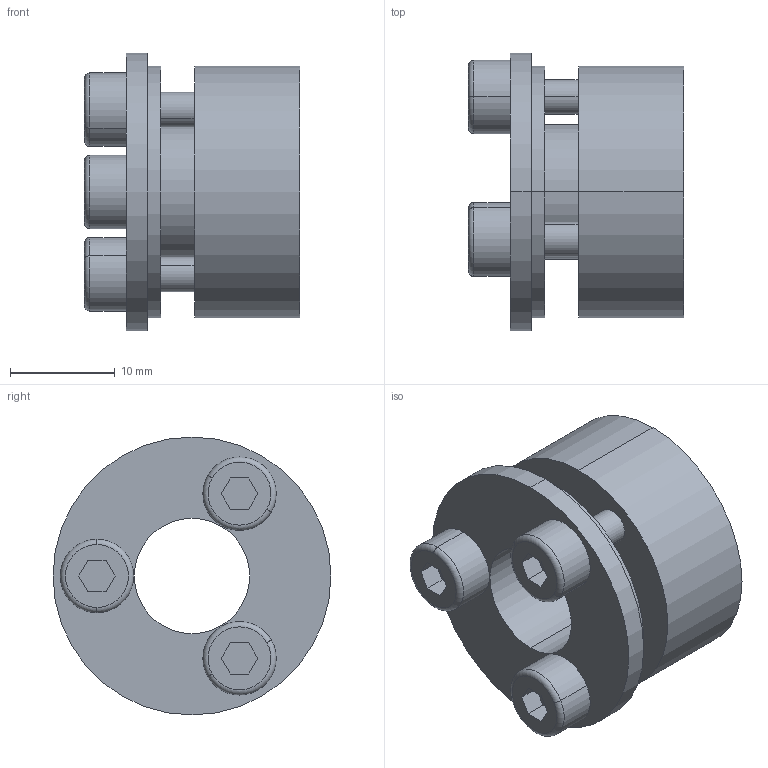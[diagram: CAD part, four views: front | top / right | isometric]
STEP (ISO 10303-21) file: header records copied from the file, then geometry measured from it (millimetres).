
FILE_DESCRIPTION (( 'STEP AP203' ), '1' );
FILE_NAME ('SK-11.STEP', '2009-09-29T17:28:20', ( 'USER' ), ( 'HOME' ), 'SwSTEP 2.0', 'SolidWorks 2007', '' );
FILE_SCHEMA (( 'CONFIG_CONTROL_DESIGN' ));
Length unit declared in the file: millimetre
Products named in the file (1): SK-11
Bounding box: 20.5 x 26.5 x 26.5 mm (x, y, z)
Volume: 5375.8 mm3; surface area: 4437 mm2
Topology: 4 solids, 4 shells, 75 faces, 168 edges, 110 vertices
Faces by surface type: plane 35, cylinder 34, torus 6
Entity records: 2213 total; most frequent: DIRECTION 400, CARTESIAN_POINT 354, ORIENTED_EDGE 336, EDGE_CURVE 168, AXIS2_PLACEMENT_3D 156, VERTEX_POINT 110, EDGE_LOOP 98, VECTOR 88
